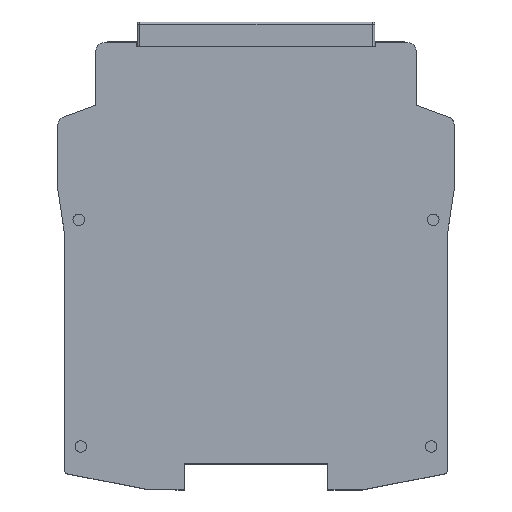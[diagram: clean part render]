
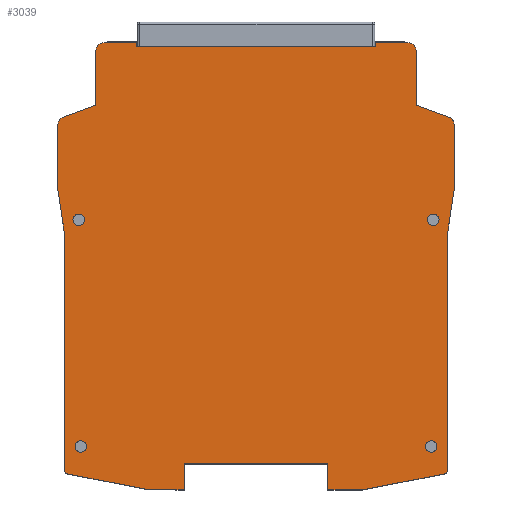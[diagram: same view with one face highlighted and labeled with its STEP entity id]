
A CAD part, top view. The second image highlights one B-rep face of the part: STEP entity #3039.
In plain terms, the highlighted planar face has unit normal (0, 0, 1).
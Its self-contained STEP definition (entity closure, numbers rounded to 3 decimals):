
#2927=FACE_BOUND('',#4353,.T.);
#2928=FACE_BOUND('',#4354,.T.);
#2929=FACE_BOUND('',#4355,.T.);
#2930=FACE_BOUND('',#4356,.T.);
#2931=FACE_BOUND('',#4357,.T.);
#3039=ADVANCED_FACE('',(#2927,#2928,#2929,#2930,#2931),#3510,.T.);
#3510=PLANE('',#11074);
#4353=EDGE_LOOP('',(#5181));
#4354=EDGE_LOOP('',(#5182));
#4355=EDGE_LOOP('',(#5183));
#4356=EDGE_LOOP('',(#5184));
#4357=EDGE_LOOP('',(#5185,#5186,#5187,#5188,#5189,#5190,#5191,#5192,#5193,
#5194,#5195,#5196,#5197,#5198,#5199,#5200,#5201,#5202,#5203,#5204,#5205,
#5206,#5207,#5208,#5209,#5210,#5211,#5212));
#4899=CIRCLE('',#11064,1.4);
#4900=CIRCLE('',#11065,1.4);
#4901=CIRCLE('',#11066,1.4);
#4902=CIRCLE('',#11067,1.4);
#4903=CIRCLE('',#11068,2.);
#4904=CIRCLE('',#11069,2.);
#4905=CIRCLE('',#11070,1.);
#4906=CIRCLE('',#11071,1.);
#4907=CIRCLE('',#11072,2.);
#4908=CIRCLE('',#11073,2.);
#5181=ORIENTED_EDGE('',*,*,#8147,.F.);
#5182=ORIENTED_EDGE('',*,*,#8148,.F.);
#5183=ORIENTED_EDGE('',*,*,#8149,.F.);
#5184=ORIENTED_EDGE('',*,*,#8150,.F.);
#5185=ORIENTED_EDGE('',*,*,#8151,.T.);
#5186=ORIENTED_EDGE('',*,*,#8152,.T.);
#5187=ORIENTED_EDGE('',*,*,#8153,.T.);
#5188=ORIENTED_EDGE('',*,*,#8154,.T.);
#5189=ORIENTED_EDGE('',*,*,#8155,.T.);
#5190=ORIENTED_EDGE('',*,*,#8156,.T.);
#5191=ORIENTED_EDGE('',*,*,#8157,.T.);
#5192=ORIENTED_EDGE('',*,*,#8158,.T.);
#5193=ORIENTED_EDGE('',*,*,#8159,.T.);
#5194=ORIENTED_EDGE('',*,*,#8160,.T.);
#5195=ORIENTED_EDGE('',*,*,#8161,.T.);
#5196=ORIENTED_EDGE('',*,*,#8162,.T.);
#5197=ORIENTED_EDGE('',*,*,#8163,.T.);
#5198=ORIENTED_EDGE('',*,*,#8164,.T.);
#5199=ORIENTED_EDGE('',*,*,#8165,.T.);
#5200=ORIENTED_EDGE('',*,*,#8166,.T.);
#5201=ORIENTED_EDGE('',*,*,#8167,.T.);
#5202=ORIENTED_EDGE('',*,*,#8168,.T.);
#5203=ORIENTED_EDGE('',*,*,#8169,.T.);
#5204=ORIENTED_EDGE('',*,*,#8170,.T.);
#5205=ORIENTED_EDGE('',*,*,#8171,.T.);
#5206=ORIENTED_EDGE('',*,*,#8172,.T.);
#5207=ORIENTED_EDGE('',*,*,#8173,.T.);
#5208=ORIENTED_EDGE('',*,*,#8174,.T.);
#5209=ORIENTED_EDGE('',*,*,#8175,.T.);
#5210=ORIENTED_EDGE('',*,*,#8176,.T.);
#5211=ORIENTED_EDGE('',*,*,#8177,.T.);
#5212=ORIENTED_EDGE('',*,*,#8178,.F.);
#7415=VERTEX_POINT('',#14172);
#7416=VERTEX_POINT('',#14174);
#7417=VERTEX_POINT('',#14176);
#7418=VERTEX_POINT('',#14178);
#7419=VERTEX_POINT('',#14180);
#7420=VERTEX_POINT('',#14181);
#7421=VERTEX_POINT('',#14183);
#7422=VERTEX_POINT('',#14185);
#7423=VERTEX_POINT('',#14187);
#7424=VERTEX_POINT('',#14189);
#7425=VERTEX_POINT('',#14191);
#7426=VERTEX_POINT('',#14193);
#7427=VERTEX_POINT('',#14195);
#7428=VERTEX_POINT('',#14197);
#7429=VERTEX_POINT('',#14199);
#7430=VERTEX_POINT('',#14201);
#7431=VERTEX_POINT('',#14203);
#7432=VERTEX_POINT('',#14205);
#7433=VERTEX_POINT('',#14207);
#7434=VERTEX_POINT('',#14209);
#7435=VERTEX_POINT('',#14211);
#7436=VERTEX_POINT('',#14213);
#7437=VERTEX_POINT('',#14215);
#7438=VERTEX_POINT('',#14217);
#7439=VERTEX_POINT('',#14219);
#7440=VERTEX_POINT('',#14221);
#7441=VERTEX_POINT('',#14223);
#7442=VERTEX_POINT('',#14225);
#7443=VERTEX_POINT('',#14227);
#7444=VERTEX_POINT('',#14229);
#7445=VERTEX_POINT('',#14231);
#7446=VERTEX_POINT('',#14233);
#8147=EDGE_CURVE('',#7415,#7415,#4899,.T.);
#8148=EDGE_CURVE('',#7416,#7416,#4900,.T.);
#8149=EDGE_CURVE('',#7417,#7417,#4901,.T.);
#8150=EDGE_CURVE('',#7418,#7418,#4902,.T.);
#8151=EDGE_CURVE('',#7419,#7420,#9252,.T.);
#8152=EDGE_CURVE('',#7420,#7421,#9253,.T.);
#8153=EDGE_CURVE('',#7421,#7422,#9254,.T.);
#8154=EDGE_CURVE('',#7422,#7423,#4903,.T.);
#8155=EDGE_CURVE('',#7423,#7424,#9255,.T.);
#8156=EDGE_CURVE('',#7424,#7425,#9256,.T.);
#8157=EDGE_CURVE('',#7425,#7426,#4904,.T.);
#8158=EDGE_CURVE('',#7426,#7427,#9257,.T.);
#8159=EDGE_CURVE('',#7427,#7428,#9258,.T.);
#8160=EDGE_CURVE('',#7428,#7429,#9259,.T.);
#8161=EDGE_CURVE('',#7429,#7430,#4905,.T.);
#8162=EDGE_CURVE('',#7430,#7431,#9260,.T.);
#8163=EDGE_CURVE('',#7431,#7432,#9261,.T.);
#8164=EDGE_CURVE('',#7432,#7433,#9262,.T.);
#8165=EDGE_CURVE('',#7433,#7434,#9263,.T.);
#8166=EDGE_CURVE('',#7434,#7435,#9264,.T.);
#8167=EDGE_CURVE('',#7435,#7436,#9265,.T.);
#8168=EDGE_CURVE('',#7436,#7437,#9266,.T.);
#8169=EDGE_CURVE('',#7437,#7438,#4906,.T.);
#8170=EDGE_CURVE('',#7438,#7439,#9267,.T.);
#8171=EDGE_CURVE('',#7439,#7440,#9268,.T.);
#8172=EDGE_CURVE('',#7440,#7441,#9269,.T.);
#8173=EDGE_CURVE('',#7441,#7442,#4907,.T.);
#8174=EDGE_CURVE('',#7442,#7443,#9270,.T.);
#8175=EDGE_CURVE('',#7443,#7444,#9271,.T.);
#8176=EDGE_CURVE('',#7444,#7445,#4908,.T.);
#8177=EDGE_CURVE('',#7445,#7446,#9272,.T.);
#8178=EDGE_CURVE('',#7419,#7446,#9273,.T.);
#9252=LINE('',#14179,#10203);
#9253=LINE('',#14182,#10204);
#9254=LINE('',#14184,#10205);
#9255=LINE('',#14188,#10206);
#9256=LINE('',#14190,#10207);
#9257=LINE('',#14194,#10208);
#9258=LINE('',#14196,#10209);
#9259=LINE('',#14198,#10210);
#9260=LINE('',#14202,#10211);
#9261=LINE('',#14204,#10212);
#9262=LINE('',#14206,#10213);
#9263=LINE('',#14208,#10214);
#9264=LINE('',#14210,#10215);
#9265=LINE('',#14212,#10216);
#9266=LINE('',#14214,#10217);
#9267=LINE('',#14218,#10218);
#9268=LINE('',#14220,#10219);
#9269=LINE('',#14222,#10220);
#9270=LINE('',#14226,#10221);
#9271=LINE('',#14228,#10222);
#9272=LINE('',#14232,#10223);
#9273=LINE('',#14234,#10224);
#10203=VECTOR('',#11846,1.);
#10204=VECTOR('',#11847,1.);
#10205=VECTOR('',#11848,1.);
#10206=VECTOR('',#11851,1.);
#10207=VECTOR('',#11852,1.);
#10208=VECTOR('',#11855,1.);
#10209=VECTOR('',#11856,1.);
#10210=VECTOR('',#11857,1.);
#10211=VECTOR('',#11860,1.);
#10212=VECTOR('',#11861,1.);
#10213=VECTOR('',#11862,1.);
#10214=VECTOR('',#11863,1.);
#10215=VECTOR('',#11864,1.);
#10216=VECTOR('',#11865,1.);
#10217=VECTOR('',#11866,1.);
#10218=VECTOR('',#11869,1.);
#10219=VECTOR('',#11870,1.);
#10220=VECTOR('',#11871,1.);
#10221=VECTOR('',#11874,1.);
#10222=VECTOR('',#11875,1.);
#10223=VECTOR('',#11878,1.);
#10224=VECTOR('',#11879,1.);
#11064=AXIS2_PLACEMENT_3D('',#14171,#11838,#11839);
#11065=AXIS2_PLACEMENT_3D('',#14173,#11840,#11841);
#11066=AXIS2_PLACEMENT_3D('',#14175,#11842,#11843);
#11067=AXIS2_PLACEMENT_3D('',#14177,#11844,#11845);
#11068=AXIS2_PLACEMENT_3D('',#14186,#11849,#11850);
#11069=AXIS2_PLACEMENT_3D('',#14192,#11853,#11854);
#11070=AXIS2_PLACEMENT_3D('',#14200,#11858,#11859);
#11071=AXIS2_PLACEMENT_3D('',#14216,#11867,#11868);
#11072=AXIS2_PLACEMENT_3D('',#14224,#11872,#11873);
#11073=AXIS2_PLACEMENT_3D('',#14230,#11876,#11877);
#11074=AXIS2_PLACEMENT_3D('',#14235,#11880,#11881);
#11838=DIRECTION('',(0.,0.,1.));
#11839=DIRECTION('',(1.,0.,0.));
#11840=DIRECTION('',(0.,0.,1.));
#11841=DIRECTION('',(1.,0.,0.));
#11842=DIRECTION('',(0.,0.,1.));
#11843=DIRECTION('',(1.,0.,0.));
#11844=DIRECTION('',(0.,0.,1.));
#11845=DIRECTION('',(1.,0.,0.));
#11846=DIRECTION('',(-1.,0.,0.));
#11847=DIRECTION('',(0.,1.,0.));
#11848=DIRECTION('',(-1.,0.,0.));
#11849=DIRECTION('',(0.,0.,1.));
#11850=DIRECTION('',(1.,0.,0.));
#11851=DIRECTION('',(0.,-1.,0.));
#11852=DIRECTION('',(-0.94,-0.342,0.));
#11853=DIRECTION('',(0.,0.,1.));
#11854=DIRECTION('',(1.,0.,0.));
#11855=DIRECTION('',(0.,-1.,0.));
#11856=DIRECTION('',(0.148,-0.989,0.));
#11857=DIRECTION('',(0.,-1.,0.));
#11858=DIRECTION('',(0.,0.,1.));
#11859=DIRECTION('',(1.,0.,0.));
#11860=DIRECTION('',(0.982,-0.191,0.));
#11861=DIRECTION('',(1.,0.,0.));
#11862=DIRECTION('',(0.,1.,0.));
#11863=DIRECTION('',(1.,0.,0.));
#11864=DIRECTION('',(0.,-1.,0.));
#11865=DIRECTION('',(1.,0.,0.));
#11866=DIRECTION('',(0.982,0.191,0.));
#11867=DIRECTION('',(0.,0.,1.));
#11868=DIRECTION('',(1.,0.,0.));
#11869=DIRECTION('',(0.,1.,0.));
#11870=DIRECTION('',(0.148,0.989,0.));
#11871=DIRECTION('',(0.,1.,0.));
#11872=DIRECTION('',(0.,0.,1.));
#11873=DIRECTION('',(1.,0.,0.));
#11874=DIRECTION('',(-0.94,0.342,0.));
#11875=DIRECTION('',(0.,1.,0.));
#11876=DIRECTION('',(0.,0.,1.));
#11877=DIRECTION('',(1.,0.,0.));
#11878=DIRECTION('',(-1.,0.,0.));
#11879=DIRECTION('',(0.,1.,0.));
#11880=DIRECTION('',(0.,0.,1.));
#11881=DIRECTION('',(1.,0.,0.));
#14171=CARTESIAN_POINT('',(-42.7,10.55,11.25));
#14172=CARTESIAN_POINT('',(-41.3,10.55,11.25));
#14173=CARTESIAN_POINT('',(43.2,65.8,11.25));
#14174=CARTESIAN_POINT('',(44.6,65.8,11.25));
#14175=CARTESIAN_POINT('',(-43.2,65.8,11.25));
#14176=CARTESIAN_POINT('',(-41.8,65.8,11.25));
#14177=CARTESIAN_POINT('',(42.7,10.55,11.25));
#14178=CARTESIAN_POINT('',(44.1,10.55,11.25));
#14179=CARTESIAN_POINT('',(29.,108.,11.25));
#14180=CARTESIAN_POINT('',(29.,108.,11.25));
#14181=CARTESIAN_POINT('',(-29.,108.,11.25));
#14182=CARTESIAN_POINT('',(-29.,108.,11.25));
#14183=CARTESIAN_POINT('',(-29.,109.,11.25));
#14184=CARTESIAN_POINT('',(-29.,109.,11.25));
#14185=CARTESIAN_POINT('',(-37.,109.,11.25));
#14186=CARTESIAN_POINT('',(-37.,107.,11.25));
#14187=CARTESIAN_POINT('',(-39.,107.,11.25));
#14188=CARTESIAN_POINT('',(-39.,109.,11.25));
#14189=CARTESIAN_POINT('',(-39.,93.717,11.25));
#14190=CARTESIAN_POINT('',(-39.,93.717,11.25));
#14191=CARTESIAN_POINT('',(-46.934,90.829,11.25));
#14192=CARTESIAN_POINT('',(-46.25,88.95,11.25));
#14193=CARTESIAN_POINT('',(-48.25,88.95,11.25));
#14194=CARTESIAN_POINT('',(-48.25,90.35,11.25));
#14195=CARTESIAN_POINT('',(-48.25,72.99,11.25));
#14196=CARTESIAN_POINT('',(-48.25,72.99,11.25));
#14197=CARTESIAN_POINT('',(-46.65,62.3,11.25));
#14198=CARTESIAN_POINT('',(-46.65,62.3,11.25));
#14199=CARTESIAN_POINT('',(-46.65,4.838,11.25));
#14200=CARTESIAN_POINT('',(-45.65,4.838,11.25));
#14201=CARTESIAN_POINT('',(-45.841,3.857,11.25));
#14202=CARTESIAN_POINT('',(-45.841,3.857,11.25));
#14203=CARTESIAN_POINT('',(-26.,0.,11.25));
#14204=CARTESIAN_POINT('',(-26.,0.,11.25));
#14205=CARTESIAN_POINT('',(-17.5,0.,11.25));
#14206=CARTESIAN_POINT('',(-17.5,0.,11.25));
#14207=CARTESIAN_POINT('',(-17.5,6.3,11.25));
#14208=CARTESIAN_POINT('',(-17.5,6.3,11.25));
#14209=CARTESIAN_POINT('',(17.5,6.3,11.25));
#14210=CARTESIAN_POINT('',(17.5,6.3,11.25));
#14211=CARTESIAN_POINT('',(17.5,0.,11.25));
#14212=CARTESIAN_POINT('',(17.5,0.,11.25));
#14213=CARTESIAN_POINT('',(26.,0.,11.25));
#14214=CARTESIAN_POINT('',(26.,0.,11.25));
#14215=CARTESIAN_POINT('',(45.841,3.857,11.25));
#14216=CARTESIAN_POINT('',(45.65,4.838,11.25));
#14217=CARTESIAN_POINT('',(46.65,4.838,11.25));
#14218=CARTESIAN_POINT('',(46.65,4.838,11.25));
#14219=CARTESIAN_POINT('',(46.65,62.3,11.25));
#14220=CARTESIAN_POINT('',(46.65,62.3,11.25));
#14221=CARTESIAN_POINT('',(48.25,72.99,11.25));
#14222=CARTESIAN_POINT('',(48.25,72.99,11.25));
#14223=CARTESIAN_POINT('',(48.25,88.95,11.25));
#14224=CARTESIAN_POINT('',(46.25,88.95,11.25));
#14225=CARTESIAN_POINT('',(46.934,90.829,11.25));
#14226=CARTESIAN_POINT('',(48.25,90.35,11.25));
#14227=CARTESIAN_POINT('',(39.,93.717,11.25));
#14228=CARTESIAN_POINT('',(39.,93.717,11.25));
#14229=CARTESIAN_POINT('',(39.,107.,11.25));
#14230=CARTESIAN_POINT('',(37.,107.,11.25));
#14231=CARTESIAN_POINT('',(37.,109.,11.25));
#14232=CARTESIAN_POINT('',(39.,109.,11.25));
#14233=CARTESIAN_POINT('',(29.,109.,11.25));
#14234=CARTESIAN_POINT('',(29.,108.,11.25));
#14235=CARTESIAN_POINT('',(-45.65,4.838,11.25));
